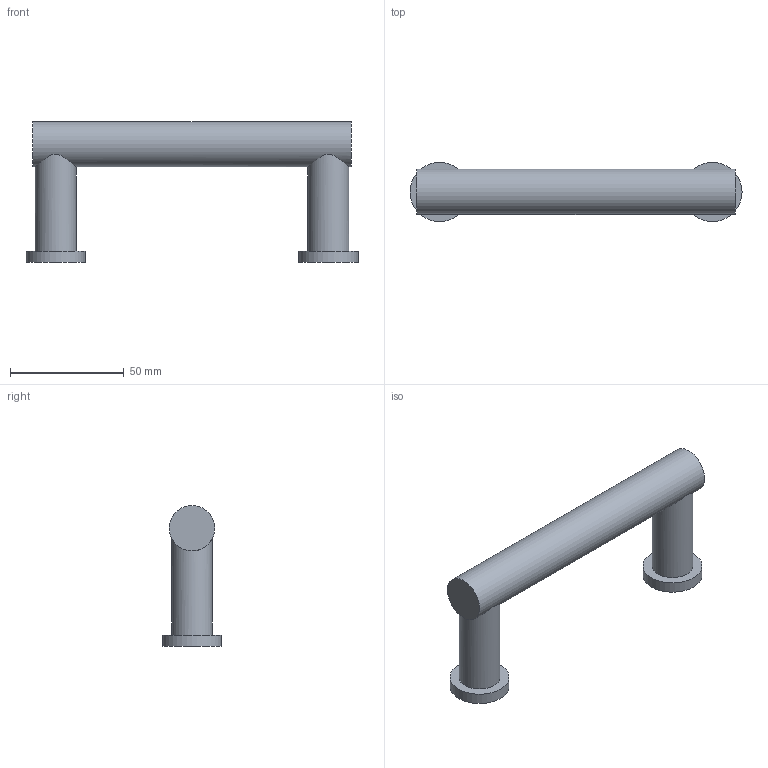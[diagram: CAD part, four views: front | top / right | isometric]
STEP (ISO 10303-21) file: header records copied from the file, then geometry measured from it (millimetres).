
FILE_DESCRIPTION(('Open CASCADE Model'),'2;1');
FILE_NAME('Open CASCADE Shape Model','2026-10-21T17:23:50',('Author'),( 'Open CASCADE'),'Open CASCADE STEP processor 7.9','Open CASCADE 7.9' ,'Unknown');
FILE_SCHEMA(('AUTOMOTIVE_DESIGN { 1 0 10303 214 1 1 1 1 }'));
Length unit declared in the file: millimetre
Products named in the file (1): Open CASCADE STEP translator 7.9 25
Bounding box: 146 x 26 x 62 mm (x, y, z)
Volume: 68371.8 mm3; surface area: 16150.3 mm2
Topology: 1 solids, 1 shells, 15 faces, 25 edges, 16 vertices
Faces by surface type: plane 8, cylinder 7
Full cylindrical faces by diameter (mm): 3.3 x2, 18 x2, 20 x1, 26 x2
Entity records: 1698 total; most frequent: CARTESIAN_POINT 1151, DIRECTION 103, ORIENTED_EDGE 50, PCURVE 50, DEFINITIONAL_REPRESENTATION 50, LINE 39, VECTOR 39, AXIS2_PLACEMENT_3D 28
